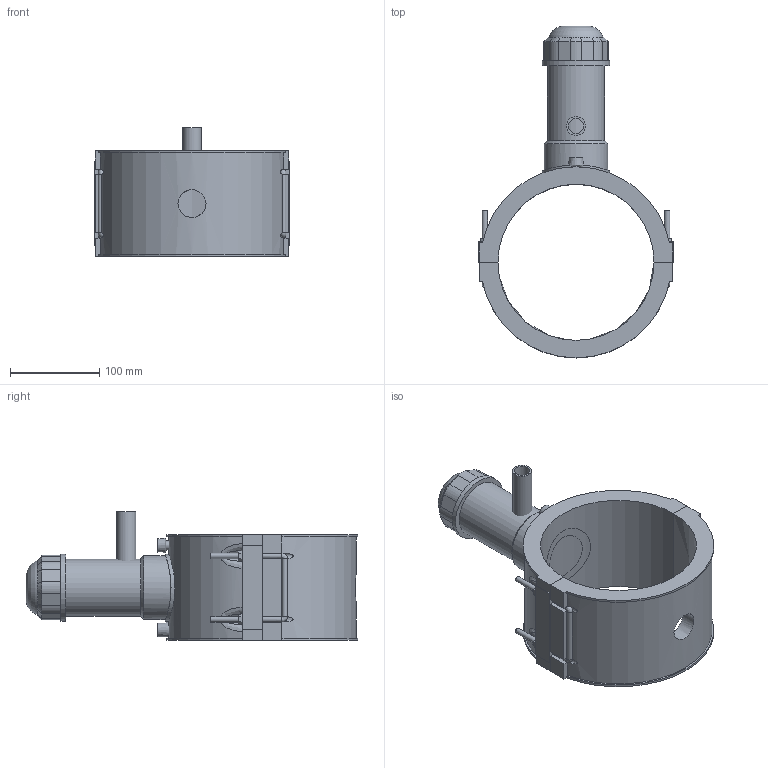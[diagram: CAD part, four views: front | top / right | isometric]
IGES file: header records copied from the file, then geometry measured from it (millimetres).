
Global section: file name: 5963DBP3060005.ipt; native system: Autodesk Inventor 2019; preprocessor: unknown; author: KIM; date: 20210830.101647; units: inch
Bounding box: 217.9 x 371.08 x 144.15 mm (x, y, z)
Volume: 1634962.8 mm3; surface area: 269534.4 mm2
Topology: 3 solids, 4 shells, 200 faces, 501 edges, 325 vertices
Faces by surface type: plane 125, cylinder 35, revolution 21, cone 15, bspline 4
Full cylindrical faces by diameter (mm): 4 x2, 6 x8, 21.2 x1, 63.78 x1, 71.283 x1, 75.035 x2
